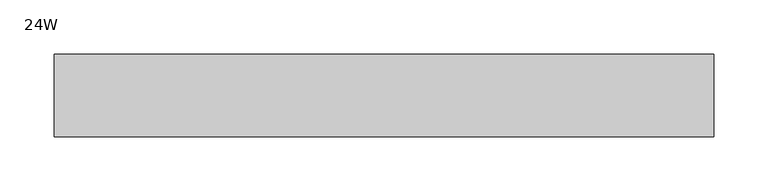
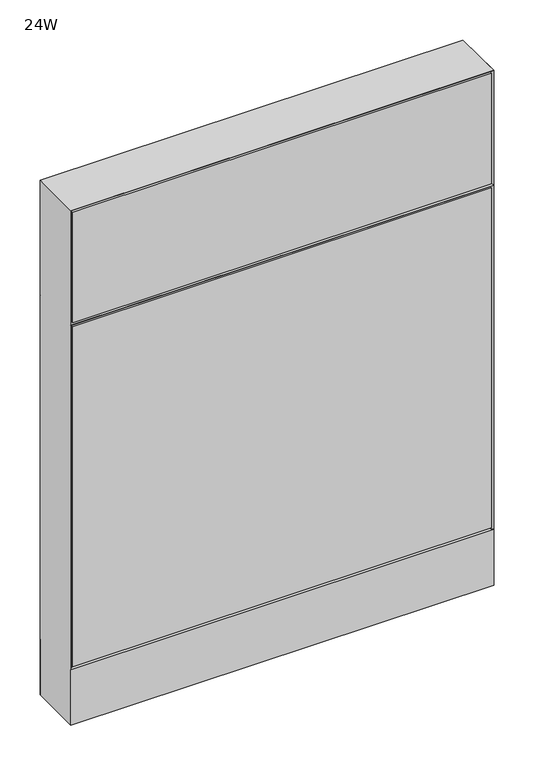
"""IFC4 building model written with IfcOpenShell, lengths in millimetres: furniture geometry, Steelcase - Montage - Frame - 31H - Enhanced Standard - Base Cavity : 24W."""

from ifc_helpers import new_model, si_unit, point, frame, frame_2d, origin, origin_with_axes, place, context, project, spatial, polyline, circle_curve, trimmed, segment, composite_curve, outline, extrude, faceted_brep, source, transform, mapped, element, save


def furniture_24w_27d8c9a8(model_context):
    return source(origin(), model_context, "Body", "SolidModel", [
        faceted_brep([(-5.7e-06, 38.1026268, 612.7750028), (6.3499913, 31.7526299, 619.1249997), (603.2500048, 31.7526299, 619.1249997), (609.6, 38.1026251, 612.7750045), (603.2500048, 31.7526299, 606.4250003), (6.3499913, 31.7526299, 606.4250003)], [[[0, 1, 2, 3]], [[3, 4, 5, 0]], [[1, 5, 4, 2]], [[0, 5, 1]], [[2, 4, 3]]]),
        extrude(outline(polyline([(3.175, 31.7500194), (3.175, 38.1000194), (606.425, 38.1000194), (606.425, 31.7500194), (3.175, 31.7500194)])), frame((0.0, 0.0, 92.075), z_axis=(0.0, 0.0, 1.0), x_axis=(1.0, 0.0, 0.0)), (0.0, 0.0, 1.0), 517.525),
        extrude(outline(polyline([(3.175, 31.7500194), (3.175, 38.1000194), (606.425, 38.1000194), (606.425, 31.7500194), (3.175, 31.7500194)])), frame((0.0, 0.0, 615.95), z_axis=(0.0, 0.0, 1.0), x_axis=(1.0, 0.0, 0.0)), (0.0, 0.0, 1.0), 168.275),
        faceted_brep([(0.0, -38.1026297, 612.775), (609.6, -38.1026297, 612.775), (603.2500048, -31.7526299, 619.1249997), (6.3499913, -31.7526299, 619.1249997), (6.3499913, -31.7526299, 606.4250003), (603.2500048, -31.7526299, 606.4250003)], [[[0, 1, 2, 3]], [[1, 0, 4, 5]], [[3, 2, 5, 4]], [[0, 3, 4]], [[2, 1, 5]]]),
        extrude(outline(polyline([(3.175, -31.7500194), (606.425, -31.7500194), (606.425, -38.1000194), (3.175, -38.1000194), (3.175, -31.7500194)])), frame((0.0, 0.0, 92.075), z_axis=(0.0, 0.0, 1.0), x_axis=(1.0, 0.0, 0.0)), (0.0, 0.0, 1.0), 517.525),
        extrude(outline(polyline([(3.175, -31.7500194), (606.425, -31.7500194), (606.425, -38.1000194), (3.175, -38.1000194), (3.175, -31.7500194)])), frame((0.0, 0.0, 615.95), z_axis=(0.0, 0.0, 1.0), x_axis=(1.0, 0.0, 0.0)), (0.0, 0.0, 1.0), 168.275),
        extrude(outline(polyline([(6.350003, -31.7499985), (603.249997, -31.7499985), (609.6, -38.1000015), (0.0, -38.1000015), (6.350003, -31.7499985)])), frame((0.0, 0.0, 4.064), z_axis=(0.0, 0.0, 1.0), x_axis=(1.0, 0.0, 0.0)), (0.0, 0.0, 1.0), 84.835997),
        extrude(outline(polyline([(6.3500002, 31.7500017), (0.0, 38.1000015), (609.6, 38.1000015), (603.2500002, 31.7500017), (6.3500002, 31.7500017)])), frame((0.0, 0.0, 4.064), z_axis=(0.0, 0.0, 1.0), x_axis=(1.0, 0.0, 0.0)), (0.0, 0.0, 1.0), 84.835997),
        faceted_brep([(609.6, -38.1000015, 787.4), (0.0, -38.1000015, 787.4), (6.3500484, -31.749953, 781.0499516), (603.2499516, -31.749953, 781.0499516), (6.3500484, 31.749953, 781.0499516), (603.2499516, 31.749953, 781.0499516), (0.0, 38.1000015, 787.4), (609.6, 38.1000015, 787.4)], [[[0, 1, 2, 3]], [[3, 2, 4, 5]], [[6, 7, 5, 4]], [[1, 0, 7, 6]], [[2, 1, 6, 4]], [[0, 3, 5, 7]]]),
        extrude(outline(composite_curve([segment(trimmed(circle_curve(frame_2d((44.45, 0.0)), 15.24), [point((29.21, 0.0))], [point((59.69, 0.0))], False, "CARTESIAN"), True, "CONTINUOUS"), segment(trimmed(circle_curve(frame_2d((44.45, 0.0)), 15.24), [point((59.69, 0.0))], [point((29.21, 0.0))], False, "CARTESIAN"), True, "CONTINUOUS")], self_intersect=False)), origin_with_axes(), (0.0, 0.0, 1.0), 4.064),
        extrude(outline(composite_curve([segment(trimmed(circle_curve(frame_2d((565.15, 0.0)), 15.24), [point((549.91, 0.0))], [point((580.39, 0.0))], False, "CARTESIAN"), True, "CONTINUOUS"), segment(trimmed(circle_curve(frame_2d((565.15, 0.0)), 15.24), [point((580.39, 0.0))], [point((549.91, 0.0))], False, "CARTESIAN"), True, "CONTINUOUS")], self_intersect=False)), origin_with_axes(), (0.0, 0.0, 1.0), 4.064),
        faceted_brep([(609.6, -38.1000106, 4.064), (609.6, 38.1000015, 4.064), (609.6, 38.1000015, 787.4), (609.6, -38.1000106, 787.3999637), (0.0, 38.1000015, 4.064), (0.0, -38.1000015, 4.064), (0.0, -38.1000015, 787.4), (0.0, 38.1000015, 787.4), (603.2499879, 31.7500017, 606.425), (6.35, 31.7500017, 606.425), (6.3499998, 31.7500017, 619.125), (603.2499879, 31.7500017, 619.125), (6.35, -31.7499985, 619.125), (603.2499879, -31.7499985, 619.125), (6.350003, -31.7499985, 606.425), (603.2499879, -31.7499985, 606.425), (6.35, 31.7500015, 4.064), (6.35, -31.7500015, 4.064), (603.2499879, 31.7499894, 4.064), (603.2499879, -31.7499985, 4.064), (6.35, 31.7500015, 781.05), (6.35, -31.7500015, 781.05), (603.2499879, -31.7499985, 781.0499516), (603.2499879, 31.7499898, 781.0499516)], [[[0, 1, 2, 3]], [[4, 5, 6, 7]], [[8, 9, 10, 11]], [[11, 10, 12, 13]], [[13, 12, 14, 15]], [[9, 8, 15, 14]], [[16, 17, 5, 4]], [[18, 1, 0, 19]], [[16, 4, 7, 20, 10, 9]], [[5, 17, 14, 12, 21, 6]], [[17, 16, 9, 14]], [[12, 10, 20, 21]], [[18, 19, 15, 8]], [[11, 13, 22, 23]], [[19, 0, 3, 22, 13, 15]], [[1, 18, 8, 11, 23, 2]], [[7, 6, 21, 20]], [[3, 2, 23, 22]]]),
    ])


if __name__ == "__main__":
    model = new_model("IFC4")
    model_context = context("Model", 3, world=origin())
    ifc_project = project(units=[si_unit("LENGTHUNIT", "METRE", prefix="MILLI")], contexts=[model_context])
    site = spatial("IfcSite", under=ifc_project)
    building = spatial("IfcBuilding", under=site)
    placement = place(None, origin())
    furniture_24w_shape = furniture_24w_27d8c9a8(model_context)
    element("IfcFurniture", 1, ObjectType="Steelcase - Montage - Frame - 31H - Enhanced Standard - Base Cavity : 24W", at=placement, inside=building, context=model_context, shape_type="MappedRepresentation", body=[
        mapped(furniture_24w_shape, transform((0.0, 0.0, 0.0), x_axis=(1.0, 0.0, 0.0), y_axis=(0.0, 1.0, 0.0), z_axis=(0.0, 0.0, 1.0))),
    ])
    save(model, "model.ifc")
